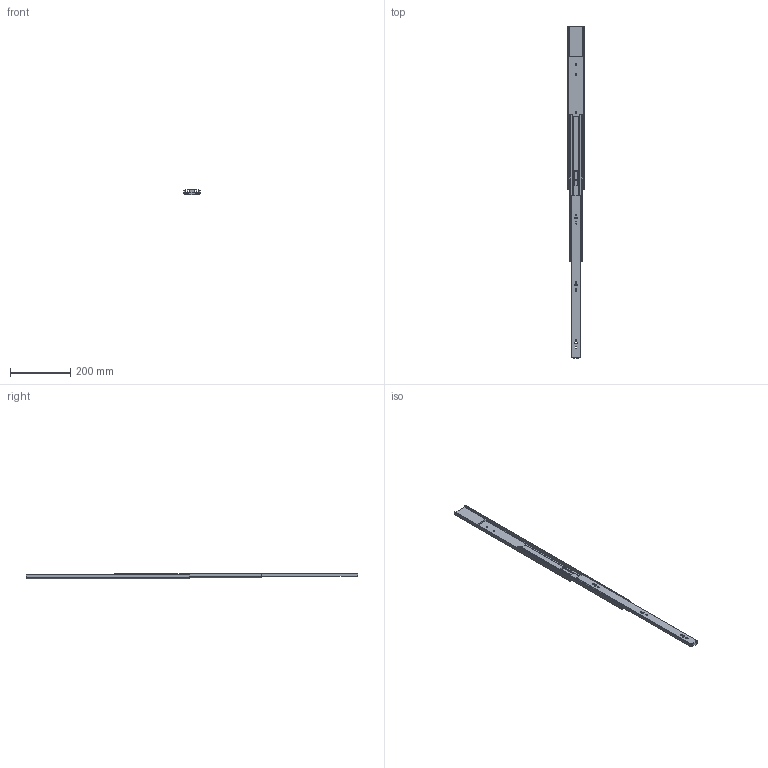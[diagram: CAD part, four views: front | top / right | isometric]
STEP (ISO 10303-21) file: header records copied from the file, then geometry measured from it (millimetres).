
FILE_DESCRIPTION((''),'2;1');
FILE_NAME('78A01_550_OPEN_ASM','2020-09-01T15:18:14',('T170334'),(''),'CREO PARAMETRIC BY PTC INC, 2018260','CREO PARAMETRIC BY PTC INC, 2018260','');
FILE_SCHEMA(('CONFIG_CONTROL_DESIGN'));
Length unit declared in the file: millimetre
Products named in the file (5): OUT_550; MID_550; IN_550; MECHANISM_O; 78A01_550_OPEN_ASM
Assembly tree (4 placements, depth 2):
  78A01_550_OPEN_ASM
    OUT_550
    MID_550
    IN_550
    MECHANISM_O
Bounding box: 53.32 x 1105.7 x 18.84 mm (x, y, z)
Volume: 208533.8 mm3; surface area: 213982.9 mm2
Topology: 4 solids, 4 shells, 162 faces, 458 edges, 304 vertices
Faces by surface type: cylinder 82, plane 80
Entity records: 5511 total; most frequent: CARTESIAN_POINT 973, DIRECTION 948, ORIENTED_EDGE 916, EDGE_CURVE 458, AXIS2_PLACEMENT_3D 327, VERTEX_POINT 304, VECTOR 294, LINE 294
